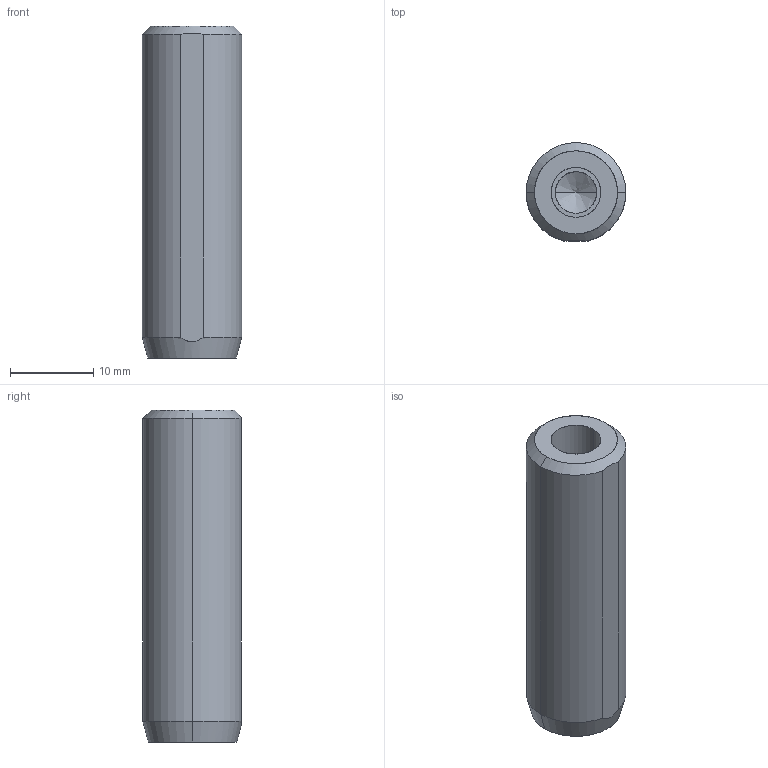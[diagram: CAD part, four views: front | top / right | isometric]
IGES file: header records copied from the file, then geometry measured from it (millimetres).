
Global section: file name: E:\UnigraphicsGraphicData\MISUMI_PRESS-PARTS\IGES\3d_mstm12-40_00435_r00.igs; native system: NX V5.0; preprocessor: UGS NX IGES V5.0; author: MISUMI; date: 20110105.161520; units: millimetre
Bounding box: 12 x 11.85 x 40 mm (x, y, z)
Surface area: 1923 mm2 (no closed solid volume)
Topology: 0 solids, 0 shells, 17 faces, 100 edges, 98 vertices
Faces by surface type: bspline 17
